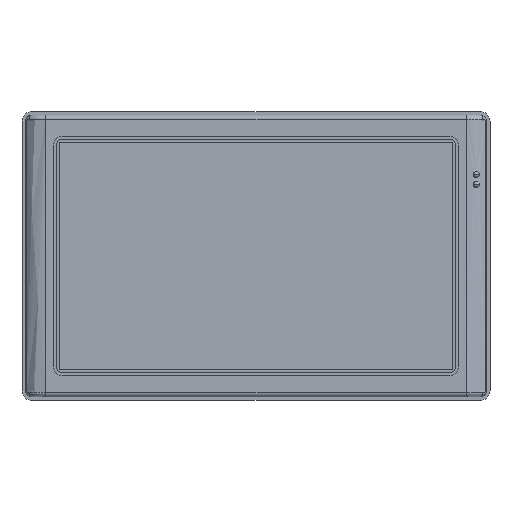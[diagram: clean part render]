
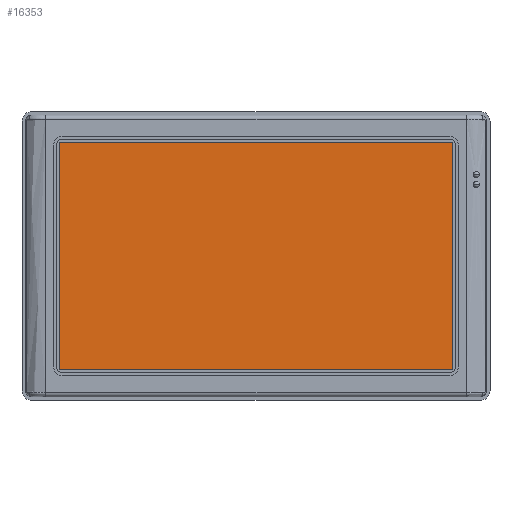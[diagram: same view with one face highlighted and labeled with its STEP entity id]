
A CAD part, top view. The second image highlights one B-rep face of the part: STEP entity #16353.
In plain terms, the highlighted planar face has unit normal (0, 0, 1).
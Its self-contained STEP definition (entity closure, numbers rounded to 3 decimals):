
#190 = CARTESIAN_POINT ( 'NONE',  ( -99.35, 57.55, 11. ) ) ;
#251 = CARTESIAN_POINT ( 'NONE',  ( 99.35, 57.55, 11. ) ) ;
#1136 = PLANE ( 'NONE',  #4067 ) ;
#1148 = CARTESIAN_POINT ( 'NONE',  ( 99.35, -57.55, 11. ) ) ;
#1149 = DIRECTION ( 'NONE',  ( 0., 0., 1. ) ) ;
#1150 = DIRECTION ( 'NONE',  ( 1., 0., 0. ) ) ;
#3118 = FACE_OUTER_BOUND ( 'NONE', #15670, .T. ) ;
#3337 = VERTEX_POINT ( 'NONE', #190 ) ;
#3355 = VERTEX_POINT ( 'NONE', #251 ) ;
#4067 = AXIS2_PLACEMENT_3D ( 'NONE', #1148, #1149, #1150 ) ;
#4681 = CARTESIAN_POINT ( 'NONE',  ( 99.35, -57.55, 11. ) ) ;
#4689 = CARTESIAN_POINT ( 'NONE',  ( -99.35, -57.55, 11. ) ) ;
#8089 = EDGE_CURVE ( 'NONE', #11523, #3355, #14376, .T. ) ;
#8091 = EDGE_CURVE ( 'NONE', #11588, #11523, #14380, .T. ) ;
#8093 = EDGE_CURVE ( 'NONE', #3337, #11588, #14384, .T. ) ;
#8095 = EDGE_CURVE ( 'NONE', #3355, #3337, #14388, .T. ) ;
#10805 = ORIENTED_EDGE ( 'NONE', *, *, #8093, .T. ) ;
#10901 = ORIENTED_EDGE ( 'NONE', *, *, #8089, .T. ) ;
#10922 = ORIENTED_EDGE ( 'NONE', *, *, #8095, .T. ) ;
#11523 = VERTEX_POINT ( 'NONE', #4681 ) ;
#11588 = VERTEX_POINT ( 'NONE', #4689 ) ;
#13290 = ORIENTED_EDGE ( 'NONE', *, *, #8091, .T. ) ;
#14376 = LINE ( 'NONE', #16919, #14379 ) ;
#14379 = VECTOR ( 'NONE', #16921, 1000. ) ;
#14380 = LINE ( 'NONE', #16923, #14383 ) ;
#14383 = VECTOR ( 'NONE', #16924, 1000. ) ;
#14384 = LINE ( 'NONE', #16927, #14387 ) ;
#14387 = VECTOR ( 'NONE', #16928, 1000. ) ;
#14388 = LINE ( 'NONE', #16931, #14391 ) ;
#14391 = VECTOR ( 'NONE', #16932, 1000. ) ;
#15670 = EDGE_LOOP ( 'NONE', ( #10901, #10922, #10805, #13290 ) ) ;
#16353 = ADVANCED_FACE ( 'NONE', ( #3118 ), #1136, .T. ) ;
#16919 = CARTESIAN_POINT ( 'NONE',  ( 99.35, 57.55, 11. ) ) ;
#16921 = DIRECTION ( 'NONE',  ( 0., 1., 0. ) ) ;
#16923 = CARTESIAN_POINT ( 'NONE',  ( -99.35, -57.55, 11. ) ) ;
#16924 = DIRECTION ( 'NONE',  ( 1., 0., 0. ) ) ;
#16927 = CARTESIAN_POINT ( 'NONE',  ( -99.35, 57.55, 11. ) ) ;
#16928 = DIRECTION ( 'NONE',  ( 0., -1., 0. ) ) ;
#16931 = CARTESIAN_POINT ( 'NONE',  ( -99.35, 57.55, 11. ) ) ;
#16932 = DIRECTION ( 'NONE',  ( -1., 0., 0. ) ) ;
